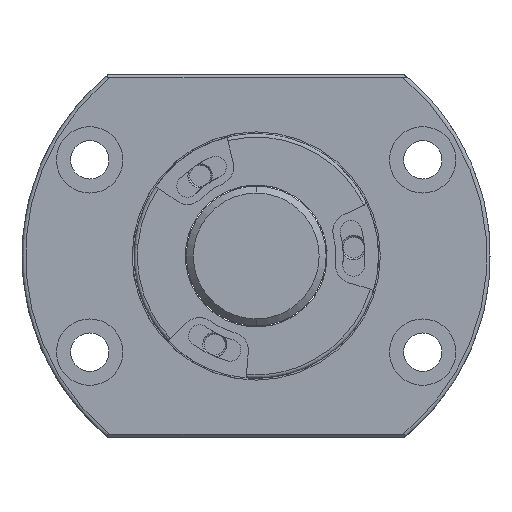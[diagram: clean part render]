
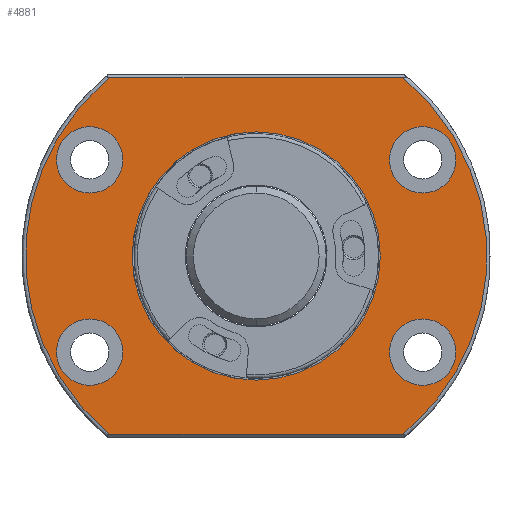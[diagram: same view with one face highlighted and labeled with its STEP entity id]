
A CAD part, left-side view. The second image highlights one B-rep face of the part: STEP entity #4881.
In plain terms, the highlighted planar face has unit normal (-1, 0, 0).
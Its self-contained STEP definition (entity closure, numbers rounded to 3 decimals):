
#2 = ORIENTED_EDGE ( 'NONE', *, *, #3422, .F. ) ;
#35 = ORIENTED_EDGE ( 'NONE', *, *, #4276, .F. ) ;
#113 = CARTESIAN_POINT ( 'NONE',  ( 0., -20.946, 25.5 ) ) ;
#237 = EDGE_LOOP ( 'NONE', ( #3029, #5705 ) ) ;
#290 = CARTESIAN_POINT ( 'NONE',  ( 0., 38.311, 11.236 ) ) ;
#325 = AXIS2_PLACEMENT_3D ( 'NONE', #1861, #4355, #4442 ) ;
#411 = DIRECTION ( 'NONE',  ( -1., 0., 0. ) ) ;
#434 = CIRCLE ( 'NONE', #2091, 4.75 ) ;
#445 =( BOUNDED_CURVE ( )  B_SPLINE_CURVE ( 3, ( #2168, #5361, #290, #900 ),
 .UNSPECIFIED., .F., .F. ) 
 B_SPLINE_CURVE_WITH_KNOTS ( ( 4, 4 ),
 ( 0., 1. ),
 .UNSPECIFIED. ) 
 CURVE ( )  GEOMETRIC_REPRESENTATION_ITEM ( )  RATIONAL_B_SPLINE_CURVE ( ( 1., 0.756, 0.756, 1. ) ) 
 REPRESENTATION_ITEM ( '' )  );
#494 = ORIENTED_EDGE ( 'NONE', *, *, #7397, .T. ) ;
#502 = DIRECTION ( 'NONE',  ( 0., 0., 1. ) ) ;
#509 = DIRECTION ( 'NONE',  ( 0., 1., 0. ) ) ;
#529 = CARTESIAN_POINT ( 'NONE',  ( 0., 23.816, -13.75 ) ) ;
#655 = EDGE_CURVE ( 'NONE', #6111, #6448, #7843, .T. ) ;
#768 = CARTESIAN_POINT ( 'NONE',  ( 0., -20.946, -25.5 ) ) ;
#798 = CARTESIAN_POINT ( 'NONE',  ( 0., -38.311, 11.236 ) ) ;
#900 = CARTESIAN_POINT ( 'NONE',  ( 0., 20.946, 25.5 ) ) ;
#1097 = CIRCLE ( 'NONE', #1109, 17.75 ) ;
#1109 = AXIS2_PLACEMENT_3D ( 'NONE', #6713, #411, #4853 ) ;
#1193 = PLANE ( 'NONE',  #1868 ) ;
#1282 = LINE ( 'NONE', #5033, #5952 ) ;
#1409 = AXIS2_PLACEMENT_3D ( 'NONE', #1827, #2426, #4990 ) ;
#1440 = FACE_OUTER_BOUND ( 'NONE', #3668, .T. ) ;
#1572 = EDGE_CURVE ( 'NONE', #3912, #7456, #1097, .T. ) ;
#1643 = AXIS2_PLACEMENT_3D ( 'NONE', #8040, #4270, #4923 ) ;
#1657 = CARTESIAN_POINT ( 'NONE',  ( 0., -20.946, -25.5 ) ) ;
#1716 = VERTEX_POINT ( 'NONE', #2355 ) ;
#1759 = CARTESIAN_POINT ( 'NONE',  ( 0., -23.816, -9. ) ) ;
#1790 = CARTESIAN_POINT ( 'NONE',  ( 0., 0., -25.5 ) ) ;
#1791 = CIRCLE ( 'NONE', #1409, 4.75 ) ;
#1814 = DIRECTION ( 'NONE',  ( 1., 0., 0. ) ) ;
#1827 = CARTESIAN_POINT ( 'NONE',  ( 0., -23.816, -13.75 ) ) ;
#1858 = DIRECTION ( 'NONE',  ( 0., 0., 1. ) ) ;
#1861 = CARTESIAN_POINT ( 'NONE',  ( 0., -23.816, 13.75 ) ) ;
#1868 = AXIS2_PLACEMENT_3D ( 'NONE', #4430, #5643, #6887 ) ;
#1921 = EDGE_LOOP ( 'NONE', ( #5773, #4216 ) ) ;
#2073 = CIRCLE ( 'NONE', #7290, 17.75 ) ;
#2091 = AXIS2_PLACEMENT_3D ( 'NONE', #529, #1814, #3577 ) ;
#2148 = EDGE_CURVE ( 'NONE', #7527, #6008, #1282, .T. ) ;
#2168 = CARTESIAN_POINT ( 'NONE',  ( 0., 20.946, -25.5 ) ) ;
#2355 = CARTESIAN_POINT ( 'NONE',  ( 0., 23.816, -18.5 ) ) ;
#2426 = DIRECTION ( 'NONE',  ( 1., 0., 0. ) ) ;
#2478 = VERTEX_POINT ( 'NONE', #1657 ) ;
#2519 = EDGE_CURVE ( 'NONE', #5226, #1716, #5559, .T. ) ;
#2629 = CARTESIAN_POINT ( 'NONE',  ( 0., -23.816, 13.75 ) ) ;
#2687 = CARTESIAN_POINT ( 'NONE',  ( 0., 23.816, 18.5 ) ) ;
#2708 = EDGE_LOOP ( 'NONE', ( #5027, #2 ) ) ;
#2885 = CARTESIAN_POINT ( 'NONE',  ( 0., -23.816, 18.5 ) ) ;
#3029 = ORIENTED_EDGE ( 'NONE', *, *, #3803, .T. ) ;
#3069 = DIRECTION ( 'NONE',  ( 1., 0., 0. ) ) ;
#3121 = FACE_BOUND ( 'NONE', #1921, .T. ) ;
#3145 = CARTESIAN_POINT ( 'NONE',  ( 0., 20.946, 25.5 ) ) ;
#3268 = CARTESIAN_POINT ( 'NONE',  ( 0., -38.311, -11.236 ) ) ;
#3414 = FACE_BOUND ( 'NONE', #2708, .T. ) ;
#3422 = EDGE_CURVE ( 'NONE', #7456, #3912, #2073, .T. ) ;
#3441 = ORIENTED_EDGE ( 'NONE', *, *, #4154, .F. ) ;
#3459 = EDGE_CURVE ( 'NONE', #4481, #7601, #3944, .T. ) ;
#3467 = CARTESIAN_POINT ( 'NONE',  ( 0., 23.816, -9. ) ) ;
#3475 = ORIENTED_EDGE ( 'NONE', *, *, #2519, .T. ) ;
#3505 = CARTESIAN_POINT ( 'NONE',  ( 0., -23.816, 9. ) ) ;
#3515 = CARTESIAN_POINT ( 'NONE',  ( 0., -23.816, -18.5 ) ) ;
#3571 = EDGE_LOOP ( 'NONE', ( #6241, #494 ) ) ;
#3577 = DIRECTION ( 'NONE',  ( 0., 0., 1. ) ) ;
#3584 = CIRCLE ( 'NONE', #325, 4.75 ) ;
#3668 = EDGE_LOOP ( 'NONE', ( #6591, #3441, #5622, #35 ) ) ;
#3803 = EDGE_CURVE ( 'NONE', #7601, #4481, #7594, .T. ) ;
#3848 = DIRECTION ( 'NONE',  ( 0., -1., 0. ) ) ;
#3912 = VERTEX_POINT ( 'NONE', #7431 ) ;
#3916 = DIRECTION ( 'NONE',  ( 0., 0., 1. ) ) ;
#3926 = CARTESIAN_POINT ( 'NONE',  ( 0., -20.946, 25.5 ) ) ;
#3944 = CIRCLE ( 'NONE', #1643, 4.75 ) ;
#4154 = EDGE_CURVE ( 'NONE', #6008, #2478, #7426, .T. ) ;
#4181 = EDGE_LOOP ( 'NONE', ( #3475, #6439 ) ) ;
#4216 = ORIENTED_EDGE ( 'NONE', *, *, #6178, .T. ) ;
#4270 = DIRECTION ( 'NONE',  ( 1., 0., 0. ) ) ;
#4276 = EDGE_CURVE ( 'NONE', #4929, #7527, #445, .T. ) ;
#4355 = DIRECTION ( 'NONE',  ( 1., 0., 0. ) ) ;
#4430 = CARTESIAN_POINT ( 'NONE',  ( 0., 0., 0. ) ) ;
#4442 = DIRECTION ( 'NONE',  ( 0., 0., 1. ) ) ;
#4481 = VERTEX_POINT ( 'NONE', #6980 ) ;
#4816 = FACE_BOUND ( 'NONE', #237, .T. ) ;
#4853 = DIRECTION ( 'NONE',  ( 0., 0., 1. ) ) ;
#4881 = ADVANCED_FACE ( 'NONE', ( #5225, #4816, #3121, #7950, #3414, #1440 ), #1193, .F. ) ;
#4923 = DIRECTION ( 'NONE',  ( 0., 0., 1. ) ) ;
#4929 = VERTEX_POINT ( 'NONE', #5817 ) ;
#4990 = DIRECTION ( 'NONE',  ( 0., 0., 1. ) ) ;
#5027 = ORIENTED_EDGE ( 'NONE', *, *, #1572, .F. ) ;
#5033 = CARTESIAN_POINT ( 'NONE',  ( 0., 0., 25.5 ) ) ;
#5225 = FACE_BOUND ( 'NONE', #4181, .T. ) ;
#5226 = VERTEX_POINT ( 'NONE', #3467 ) ;
#5339 = EDGE_CURVE ( 'NONE', #1716, #5226, #434, .T. ) ;
#5343 = VERTEX_POINT ( 'NONE', #1759 ) ;
#5361 = CARTESIAN_POINT ( 'NONE',  ( 0., 38.311, -11.236 ) ) ;
#5448 = CARTESIAN_POINT ( 'NONE',  ( 0., 23.816, 13.75 ) ) ;
#5518 = CARTESIAN_POINT ( 'NONE',  ( 0., -23.816, -13.75 ) ) ;
#5556 = DIRECTION ( 'NONE',  ( -1., 0., 0. ) ) ;
#5559 = CIRCLE ( 'NONE', #5883, 4.75 ) ;
#5622 = ORIENTED_EDGE ( 'NONE', *, *, #2148, .F. ) ;
#5643 = DIRECTION ( 'NONE',  ( 1., 0., 0. ) ) ;
#5645 = CARTESIAN_POINT ( 'NONE',  ( 0., 0., -17.75 ) ) ;
#5705 = ORIENTED_EDGE ( 'NONE', *, *, #3459, .T. ) ;
#5718 = EDGE_CURVE ( 'NONE', #2478, #4929, #7162, .T. ) ;
#5773 = ORIENTED_EDGE ( 'NONE', *, *, #655, .T. ) ;
#5817 = CARTESIAN_POINT ( 'NONE',  ( 0., 20.946, -25.5 ) ) ;
#5883 = AXIS2_PLACEMENT_3D ( 'NONE', #6843, #3069, #1858 ) ;
#5952 = VECTOR ( 'NONE', #3848, 1000. ) ;
#6008 = VERTEX_POINT ( 'NONE', #113 ) ;
#6067 = DIRECTION ( 'NONE',  ( 1., 0., 0. ) ) ;
#6111 = VERTEX_POINT ( 'NONE', #2885 ) ;
#6154 = AXIS2_PLACEMENT_3D ( 'NONE', #5448, #6067, #7282 ) ;
#6178 = EDGE_CURVE ( 'NONE', #6448, #6111, #3584, .T. ) ;
#6241 = ORIENTED_EDGE ( 'NONE', *, *, #6621, .T. ) ;
#6439 = ORIENTED_EDGE ( 'NONE', *, *, #5339, .T. ) ;
#6448 = VERTEX_POINT ( 'NONE', #3505 ) ;
#6512 = DIRECTION ( 'NONE',  ( 1., 0., 0. ) ) ;
#6591 = ORIENTED_EDGE ( 'NONE', *, *, #5718, .F. ) ;
#6621 = EDGE_CURVE ( 'NONE', #5343, #6876, #7622, .T. ) ;
#6713 = CARTESIAN_POINT ( 'NONE',  ( 0., 0., 0. ) ) ;
#6843 = CARTESIAN_POINT ( 'NONE',  ( 0., 23.816, -13.75 ) ) ;
#6876 = VERTEX_POINT ( 'NONE', #3515 ) ;
#6887 = DIRECTION ( 'NONE',  ( 0., 0., -1. ) ) ;
#6980 = CARTESIAN_POINT ( 'NONE',  ( 0., 23.816, 9. ) ) ;
#6999 = AXIS2_PLACEMENT_3D ( 'NONE', #5518, #7383, #7414 ) ;
#7162 = LINE ( 'NONE', #1790, #8053 ) ;
#7187 = AXIS2_PLACEMENT_3D ( 'NONE', #2629, #6512, #3916 ) ;
#7282 = DIRECTION ( 'NONE',  ( 0., 0., 1. ) ) ;
#7290 = AXIS2_PLACEMENT_3D ( 'NONE', #7400, #5556, #502 ) ;
#7383 = DIRECTION ( 'NONE',  ( 1., 0., 0. ) ) ;
#7397 = EDGE_CURVE ( 'NONE', #6876, #5343, #1791, .T. ) ;
#7400 = CARTESIAN_POINT ( 'NONE',  ( 0., 0., 0. ) ) ;
#7414 = DIRECTION ( 'NONE',  ( 0., 0., 1. ) ) ;
#7426 =( BOUNDED_CURVE ( )  B_SPLINE_CURVE ( 3, ( #3926, #798, #3268, #768 ),
 .UNSPECIFIED., .F., .T. ) 
 B_SPLINE_CURVE_WITH_KNOTS ( ( 4, 4 ),
 ( 0., 1. ),
 .UNSPECIFIED. ) 
 CURVE ( )  GEOMETRIC_REPRESENTATION_ITEM ( )  RATIONAL_B_SPLINE_CURVE ( ( 1., 0.756, 0.756, 1. ) ) 
 REPRESENTATION_ITEM ( '' )  );
#7431 = CARTESIAN_POINT ( 'NONE',  ( 0., 0., 17.75 ) ) ;
#7456 = VERTEX_POINT ( 'NONE', #5645 ) ;
#7527 = VERTEX_POINT ( 'NONE', #3145 ) ;
#7594 = CIRCLE ( 'NONE', #6154, 4.75 ) ;
#7601 = VERTEX_POINT ( 'NONE', #2687 ) ;
#7622 = CIRCLE ( 'NONE', #6999, 4.75 ) ;
#7843 = CIRCLE ( 'NONE', #7187, 4.75 ) ;
#7950 = FACE_BOUND ( 'NONE', #3571, .T. ) ;
#8040 = CARTESIAN_POINT ( 'NONE',  ( 0., 23.816, 13.75 ) ) ;
#8053 = VECTOR ( 'NONE', #509, 1000. ) ;
